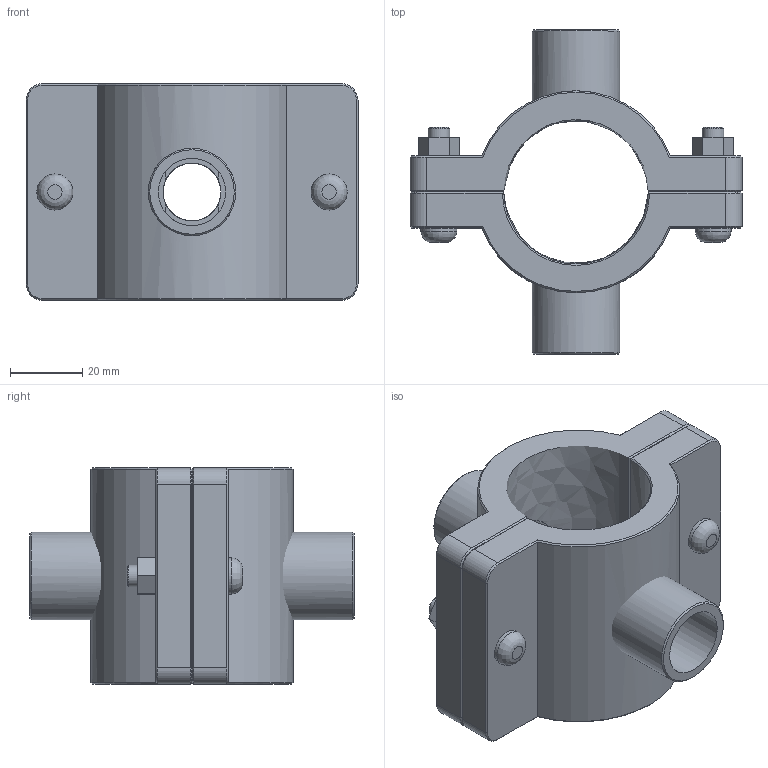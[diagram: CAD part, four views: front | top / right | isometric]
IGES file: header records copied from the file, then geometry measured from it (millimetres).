
Global section: file name: 161760040005_161860040005.ipt; native system: Autodesk Inventor 2015; preprocessor: unknown; author: KIM; date: 20170618.093647; units: millimetre
Bounding box: 92 x 90 x 60 mm (x, y, z)
Volume: 124724 mm3; surface area: 40240.9 mm2
Topology: 3 solids, 3 shells, 131 faces, 307 edges, 192 vertices
Faces by surface type: plane 70, cone 24, revolution 19, cylinder 18
Full cylindrical faces by diameter (mm): 6 x2, 10 x4, 24.22 x2
